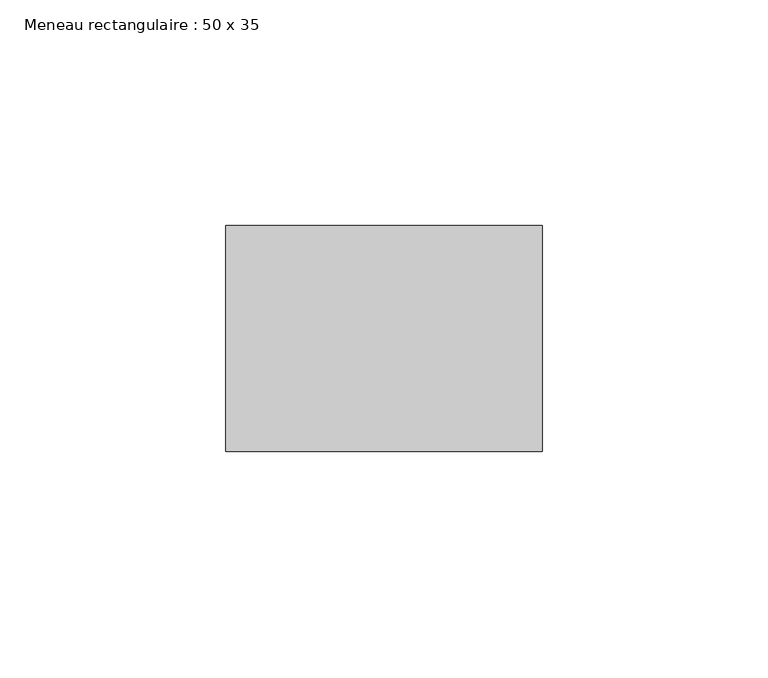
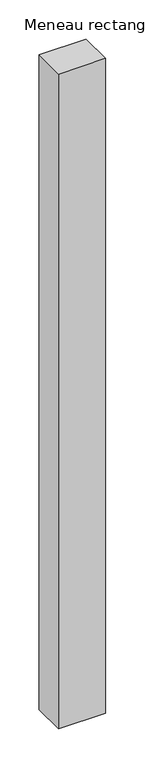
"""IFC4 building model written with IfcOpenShell, lengths in millimetres: member geometry, Meneau rectangulaire : 50 x 35."""

from ifc_helpers import new_model, si_unit, frame, origin, place, context, project, spatial, polyline, outline, extrude, source, transform, mapped, element, save


def meneau_rectangulaire_50_x_35_99c281c9(model_context):
    return source(origin(), model_context, "Body", "SweptSolid", [
        extrude(outline(polyline([(35.0, 0.0), (35.0, -50.0), (-35.0, -50.0), (-35.0, 0.0), (35.0, 0.0)])), frame((0.0, 0.0, -1023.0), z_axis=(0.0, 0.0, 1.0), x_axis=(1.0, 0.0, 0.0)), (0.0, 0.0, 1.0), 1023.0),
    ])


if __name__ == "__main__":
    model = new_model("IFC4")
    model_context = context("Model", 3, world=origin())
    ifc_project = project(units=[si_unit("LENGTHUNIT", "METRE", prefix="MILLI")], contexts=[model_context])
    site = spatial("IfcSite", under=ifc_project)
    building = spatial("IfcBuilding", under=site)
    placement = place(None, origin())
    meneau_rectangulaire_50_x_35_shape = meneau_rectangulaire_50_x_35_99c281c9(model_context)
    element("IfcMember", 1, ObjectType="Meneau rectangulaire : 50 x 35", at=placement, inside=building, context=model_context, shape_type="MappedRepresentation", body=[
        mapped(meneau_rectangulaire_50_x_35_shape, transform((0.0, 0.0, 0.0), x_axis=(1.0, 0.0, 0.0), y_axis=(0.0, 1.0, 0.0), z_axis=(0.0, 0.0, 1.0))),
    ])
    save(model, "model.ifc")
